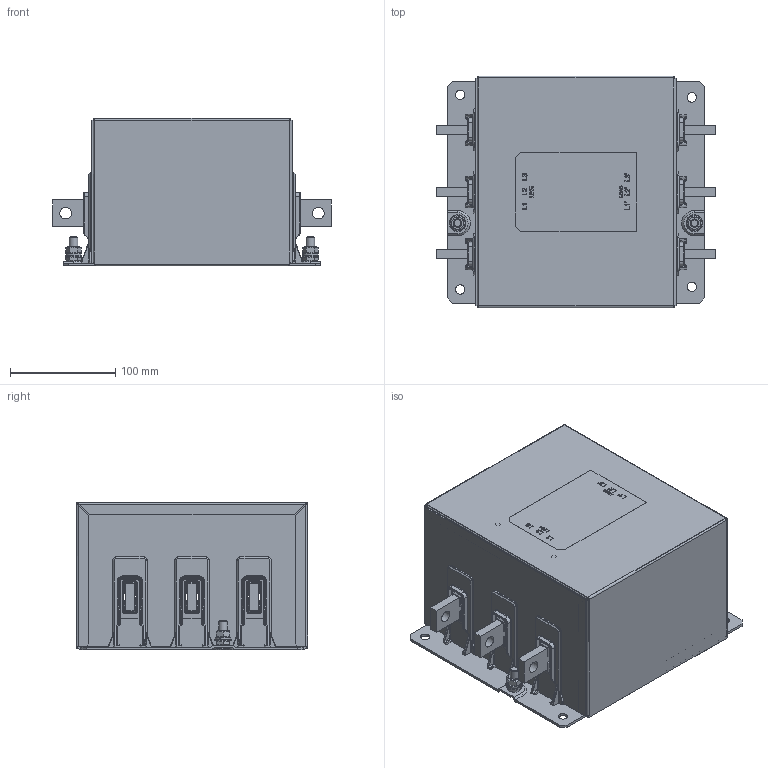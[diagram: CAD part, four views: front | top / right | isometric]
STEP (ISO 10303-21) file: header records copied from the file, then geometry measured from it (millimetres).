
FILE_DESCRIPTION(/* description */ ('raw material description'),/* implementation_level */ '2;1');
FILE_NAME(/* name */ 'C:\Users\Oliver.Volic\Desktop\FN3311-600-99-CXX-R.stp',/* time_stamp */ '2019-12-12T13:04:00+01:00',/* author */ ('Oliver.Volic'),/* organization */ ('Schaffner EMV AG'),/* preprocessor_version */ 'ST-DEVELOPER v16.5',/* originating_system */ 'Autodesk Inventor 2017',/* authorisation */ '');
FILE_SCHEMA (('CONFIG_CONTROL_DESIGN'));
Products named in the file (1): FN3311-600-99-CXX-R
Bounding box: 265 x 220 x 140.1 mm (x, y, z)
Volume: 401972.8 mm3; surface area: 459984.5 mm2
Topology: 3 solids, 3 shells, 2790 faces, 7181 edges, 4386 vertices
Faces by surface type: plane 1342, cylinder 734, bspline 568, cone 74, sphere 60, torus 12
Full cylindrical faces by diameter (mm): 4.82 x2, 8 x4, 9 x4, 11 x6, 13 x2, 16 x2
Entity records: 98933 total; most frequent: CARTESIAN_POINT 30093, ORIENTED_EDGE 14206, DIRECTION 13075, EDGE_CURVE 7103, LINE 4453, VECTOR 4453, VERTEX_POINT 4382, AXIS2_PLACEMENT_3D 4311
